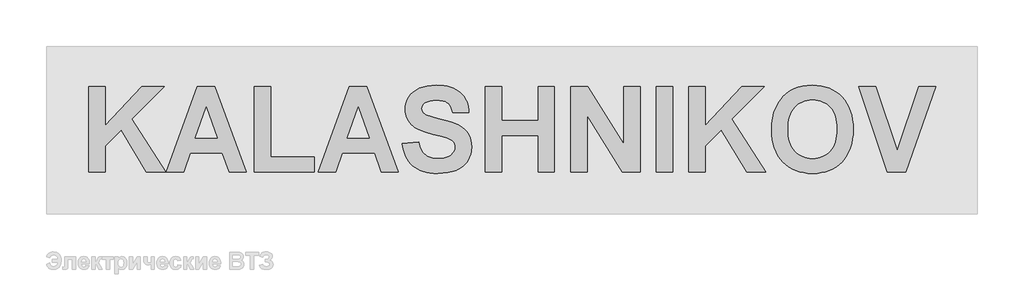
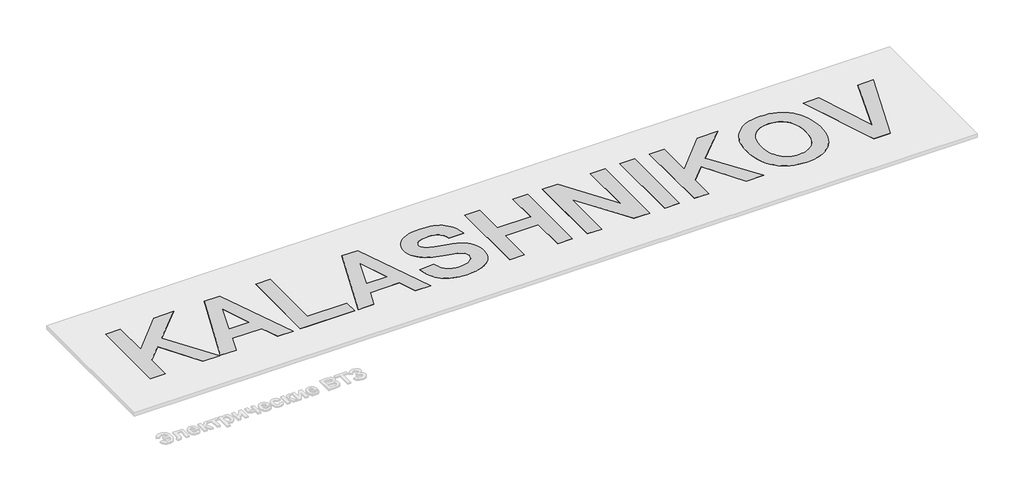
# One storey, part 8 of 8: 1 proxy.
"""IFC4 building model written with IfcOpenShell, lengths in millimetres."""

from ifc_helpers import new_model, si_unit, origin, origin_with_axes, place, context, project, spatial, polyline, outline, extrude, element, save

model = new_model("IFC4")

# Units and contexts
model_context = context("Model", 3, world=origin())
ifc_project = project(units=[si_unit("LENGTHUNIT", "METRE", prefix="MILLI")], contexts=[model_context])

# Site, building, storey
site = spatial("IfcSite", under=ifc_project)
building = spatial("IfcBuilding", under=site)
storey = spatial("IfcBuildingStorey", under=building, Name="Уровень 1", Elevation=0.0)

# Proxy
placement = place(None, origin())
element("IfcBuildingElementProxy", 1, Name="ИЗТТ_Текст3", ObjectType="ИЗТТ_Текст3", at=placement, inside=storey, context=model_context, shape_type="SweptSolid", body=[
    extrude(outline(polyline([(-14339.1895869, 18894.6450395), (-14339.1895869, 20935.1638394), (-13950.5193393, 20935.1638394), (-13950.5193393, 20004.9868666), (-13074.9991201, 20935.1638394), (-12541.5896918, 20935.1638394), (-13313.8693764, 20155.79902), (-12509.2005045, 18894.6450395), (-12963.6612888, 18894.6450395), (-13566.4038212, 19900.228089), (-13950.5193393, 19512.0639224), (-13950.5193393, 18894.6450395), (-14339.1895869, 18894.6450395)])), origin_with_axes(), (0.0, 0.0, 1.0), 100.0),
    extrude(outline(polyline([(-10582.0438601, 18894.6450395), (-10990.4512687, 18894.6450395), (-11150.372881, 19348.0936617), (-11921.1343225, 19348.0936617), (-12079.0316106, 18894.6450395), (-12493.0059108, 18894.6450395), (-11748.0546029, 20935.1638394), (-11334.0803027, 20935.1638394), (-10582.0438601, 18894.6450395)]), holes=[polyline([(-11274.8688197, 19704.374722), (-11537.5248854, 20449.3260299), (-11796.6383838, 19704.374722), (-11274.8688197, 19704.374722)])]), origin_with_axes(), (0.0, 0.0, 1.0), 100.0),
    extrude(outline(polyline([(-10387.7087363, 18894.6450395), (-10387.7087363, 20935.1638394), (-9999.0384887, 20935.1638394), (-9999.0384887, 19250.9260998), (-8962.5844951, 19250.9260998), (-8962.5844951, 18894.6450395), (-10387.7087363, 18894.6450395)])), origin_with_axes(), (0.0, 0.0, 1.0), 100.0),
    extrude(outline(polyline([(-6954.4548825, 18894.6450395), (-7362.8622911, 18894.6450395), (-7522.7839034, 19348.0936617), (-8293.5453449, 19348.0936617), (-8451.442633, 18894.6450395), (-8865.4169332, 18894.6450395), (-8120.4656253, 20935.1638394), (-7706.4913251, 20935.1638394), (-6954.4548825, 18894.6450395)]), holes=[polyline([(-7647.2798421, 19704.374722), (-7909.9359078, 20449.3260299), (-8169.0494062, 19704.374722), (-7647.2798421, 19704.374722)])]), origin_with_axes(), (0.0, 0.0, 1.0), 100.0),
    extrude(outline(polyline([(-6857.2873206, 19574.8179728), (-6468.617073, 19607.2071601), (-6445.0843041, 19513.6454257), (-6429.7120921, 19471.8462938), (-6411.9359952, 19433.3683189), (-6391.7560133, 19398.2115008), (-6369.1721463, 19366.3758397), (-6344.1843944, 19337.8613354), (-6316.7927575, 19312.6679881), (-6286.957698, 19290.6060173), (-6254.6396783, 19271.4856425), (-6219.8386985, 19255.3068639), (-6182.5547586, 19242.0696814), (-6142.7878584, 19231.774095), (-6100.5379981, 19224.4201047), (-6008.5893971, 19218.5369125), (-5911.9595463, 19223.7400583), (-5828.0449819, 19239.3494957), (-5790.8559322, 19251.0565738), (-5756.845704, 19265.3652248), (-5726.0142974, 19282.2754487), (-5698.3617125, 19301.7872455), (-5652.7511577, 19345.1678806), (-5634.8327255, 19368.1747997), (-5620.17219, 19392.0594531), (-5608.7695513, 19416.8218408), (-5600.6248094, 19442.4619628), (-5595.7379642, 19468.9798191), (-5594.1090159, 19496.3754098), (-5596.8133865, 19530.7414762), (-5604.9264983, 19562.4822472), (-5618.4483514, 19591.5977227), (-5637.3789458, 19618.0879027), (-5663.0783742, 19642.4272383), (-5696.9067295, 19665.0901804), (-5738.8640116, 19686.076729), (-5788.9502207, 19705.3868841), (-5910.1566326, 19739.1677943), (-6126.000201, 19791.9267439), (-6282.4425061, 19834.1528817), (-6351.222084, 19857.1400319), (-6413.7072789, 19881.3765698), (-6469.8980906, 19906.8624952), (-6519.7945193, 19933.5978083), (-6563.3965649, 19961.5825089), (-6600.7042274, 19990.8165972), (-6645.6584583, 20033.9679144), (-6684.6187918, 20079.4124113), (-6717.5852278, 20127.150088), (-6744.5577663, 20177.1809444), (-6765.5364074, 20229.5049807), (-6780.5211511, 20284.1221966), (-6789.5119972, 20341.0325924), (-6792.508946, 20400.2361679), (-6787.0053145, 20476.6544067), (-6770.4944202, 20550.5422402), (-6742.976263, 20621.8996685), (-6704.450843, 20690.7266915), (-6655.5507614, 20754.2714935), (-6596.9086195, 20809.7822589), (-6528.5244174, 20857.2589875), (-6450.3981551, 20896.7016795), (-6363.1308038, 20927.6991439), (-6267.3233347, 20949.8401899), (-6162.9757479, 20963.1248175), (-6050.0880433, 20967.5530267), (-5957.2735692, 20964.7933035), (-5870.3818249, 20956.5141338), (-5789.4128104, 20942.7155176), (-5714.3665257, 20923.397455), (-5645.2429709, 20898.5599459), (-5582.0421458, 20868.2029903), (-5524.7640505, 20832.3265882), (-5473.4086851, 20790.9307397), (-5427.8890667, 20744.9327166), (-5388.1182128, 20695.2497909), (-5354.0961234, 20641.8819625), (-5325.8227984, 20584.8292315), (-5303.2982378, 20524.0915978), (-5286.5224417, 20459.6690614), (-5275.4954101, 20391.5616224), (-5270.2171429, 20319.7692807), (-5658.8873905, 20319.7692807), (-5676.457892, 20391.9965358), (-5701.8410197, 20453.3114182), (-5735.0367737, 20503.7139279), (-5754.5643855, 20524.823043), (-5776.0451539, 20543.204065), (-5799.9060847, 20559.1574794), (-5826.5741839, 20572.9837719), (-5888.3318872, 20594.2549911), (-5961.3182639, 20607.0177226), (-6045.5333138, 20611.2719664), (-6133.3383763, 20606.748867), (-6211.0218177, 20593.1795688), (-6278.5836381, 20570.5640718), (-6308.5689404, 20555.8639988), (-6336.0238374, 20538.902376), (-6365.6928391, 20513.6615836), (-6386.8849831, 20484.498663), (-6399.6002696, 20451.4136142), (-6403.8386984, 20414.4064374), (-6399.9798303, 20380.0245559), (-6388.4032263, 20348.2363399), (-6369.1088862, 20319.0417892), (-6342.0968101, 20292.4409039), (-6318.9870933, 20276.3056166), (-6288.8792245, 20260.0359016), (-6207.6690307, 20227.0931881), (-6098.4662288, 20193.6127636), (-5961.2708188, 20159.5946279), (-5819.9318701, 20124.8964458), (-5698.2984523, 20089.375882), (-5596.3705656, 20053.0329365), (-5514.1482097, 20015.8676092), (-5445.7007475, 19974.827599), (-5385.0975416, 19926.8606043), (-5332.3385919, 19871.9666252), (-5287.4238986, 19810.1456618), (-5251.5554041, 19741.0339682), (-5225.9350508, 19664.2677987), (-5210.5628389, 19579.8471533), (-5205.4387683, 19487.7720319), (-5211.4959258, 19402.117814), (-5229.6673986, 19319.2470418), (-5259.9531865, 19239.1597154), (-5302.3532896, 19161.8558347), (-5327.8392151, 19125.1175134), (-5355.8397308, 19090.8147071), (-5386.3548367, 19058.9474159), (-5419.3845328, 19029.5156397), (-5454.9288192, 19002.5193786), (-5492.9876957, 18977.9586326), (-5533.5611625, 18955.8334016), (-5576.6492196, 18936.1436857), (-5670.7961102, 18903.8177586), (-5775.8553735, 18880.7278106), (-5891.8270095, 18866.8738418), (-6018.7110181, 18862.2558522), (-6112.3201976, 18865.0986044), (-6200.3308555, 18873.6268608), (-6282.7429917, 18887.8406216), (-6359.5566063, 18907.7398867), (-6430.7716993, 18933.3246561), (-6496.3882707, 18964.5949298), (-6556.4063204, 19001.5507079), (-6610.8258484, 19044.1919902), (-6659.8445428, 19092.2815514), (-6703.6600913, 19145.5821659), (-6742.2724941, 19204.0938337), (-6775.681751, 19267.8165549), (-6803.8878621, 19336.7503294), (-6826.8908274, 19410.8951572), (-6844.6906469, 19490.2510383), (-6857.2873206, 19574.8179728)])), origin_with_axes(), (0.0, 0.0, 1.0), 100.0),
    extrude(outline(polyline([(-4881.5468952, 18894.6450395), (-4881.5468952, 20935.1638394), (-4492.8766476, 20935.1638394), (-4492.8766476, 20125.4341569), (-3618.3685905, 20125.4341569), (-3618.3685905, 20935.1638394), (-3229.6983429, 20935.1638394), (-3229.6983429, 18894.6450395), (-3618.3685905, 18894.6450395), (-3618.3685905, 19769.1530966), (-4492.8766476, 19769.1530966), (-4492.8766476, 18894.6450395), (-4881.5468952, 18894.6450395)])), origin_with_axes(), (0.0, 0.0, 1.0), 100.0),
    extrude(outline(polyline([(-2841.0280953, 18894.6450395), (-2841.0280953, 20935.1638394), (-2433.6328488, 20935.1638394), (-1577.8497906, 19561.6598655), (-1577.8497906, 20935.1638394), (-1189.179543, 20935.1638394), (-1189.179543, 18894.6450395), (-1609.2268158, 18894.6450395), (-2452.3578477, 20247.9057714), (-2452.3578477, 18894.6450395), (-2841.0280953, 18894.6450395)])), origin_with_axes(), (0.0, 0.0, 1.0), 100.0),
    extrude(outline(polyline([(-800.5092954, 18894.6450395), (-800.5092954, 20935.1638394), (-411.8390478, 20935.1638394), (-411.8390478, 18894.6450395), (-800.5092954, 18894.6450395)])), origin_with_axes(), (0.0, 0.0, 1.0), 100.0),
    extrude(outline(polyline([(-23.1688002, 18894.6450395), (-23.1688002, 20935.1638394), (365.5014474, 20935.1638394), (365.5014474, 20004.9868666), (1241.0216666, 20935.1638394), (1774.4310949, 20935.1638394), (1002.1514103, 20155.79902), (1806.8202822, 18894.6450395), (1352.3594979, 18894.6450395), (749.6169655, 19900.228089), (365.5014474, 19512.0639224), (365.5014474, 18894.6450395), (-23.1688002, 18894.6450395)])), origin_with_axes(), (0.0, 0.0, 1.0), 100.0),
    extrude(outline(polyline([(1952.5716251, 19902.2524132), (1958.296667, 20051.6095835), (1965.4529694, 20121.5911039), (1975.4717927, 20188.4412478), (1988.3531369, 20252.1600152), (2004.0970022, 20312.7474061), (2022.7033883, 20370.2034205), (2044.1722954, 20424.5280584), (2081.4483279, 20500.2346207), (2124.9554833, 20571.9874248), (2174.6937616, 20639.7864707), (2230.6631629, 20703.6317583), (2291.1556636, 20761.4989636), (2354.4632402, 20811.3637622), (2420.5858926, 20853.2261542), (2489.5236208, 20887.0861395), (2586.7544428, 20922.2904027), (2691.1969199, 20947.4363049), (2802.8510519, 20962.5238463), (2921.7168388, 20967.5530267), (3029.6544381, 20963.1920314), (3132.0567759, 20950.1090455), (3228.9238522, 20928.3040689), (3320.255667, 20897.7771017), (3406.0522202, 20858.5281439), (3486.313512, 20810.5571955), (3561.0395423, 20753.8642564), (3630.230311, 20688.4493268), (3692.5020029, 20615.269216), (3746.4708026, 20535.2807335), (3792.13671, 20448.4838794), (3829.4997251, 20354.8786537), (3858.559848, 20254.4650563), (3879.3170786, 20147.2430872), (3891.771417, 20033.2127465), (3895.9228631, 19912.3740342), (3891.8030471, 19792.3774724), (3879.4435989, 19679.1022995), (3858.8445186, 19572.5485156), (3830.0058061, 19472.7161207), (3792.9274616, 19379.6051147), (3747.6094849, 19293.2154977), (3694.0518762, 19213.5472696), (3632.2546352, 19140.6004306), (3563.5541325, 19075.36342), (3489.2867382, 19018.8246775), (3409.4524523, 18970.9842031), (3324.0512748, 18931.8419968), (3233.0832058, 18901.3980585), (3136.5482452, 18879.6523883), (3034.4463931, 18866.6049862), (2926.7776494, 18862.2558522), (2817.9227782, 18866.5852174), (2714.7929489, 18879.5733132), (2617.3881615, 18901.2201394), (2525.708416, 18931.5256961), (2439.7537124, 18970.4899833), (2359.5240507, 19018.113001), (2285.0194309, 19074.3947492), (2216.239853, 19139.3352279), (2154.4426121, 19211.8669224), (2100.8850033, 19290.9223179), (2055.5670266, 19376.5014145), (2018.4886821, 19468.6042121), (1989.6499696, 19567.2307108), (1969.0508893, 19672.3809105), (1956.6914412, 19784.0548113), (1952.5716251, 19902.2524132)]), holes=[polyline([(2341.2418727, 19916.4226826), (2343.8236768, 19833.116997), (2351.5690892, 19755.0144572), (2364.4781097, 19682.1150633), (2382.5507385, 19614.4188151), (2405.7869756, 19551.9257127), (2434.1868208, 19494.6357562), (2467.7502743, 19442.5489455), (2506.477336, 19395.6652805), (2549.1818785, 19354.1508193), (2594.6777743, 19318.1716195), (2642.9650234, 19287.7276813), (2694.0436258, 19262.8190045), (2747.9135815, 19243.4455893), (2804.5748904, 19229.6074355), (2864.0275527, 19221.3045433), (2926.2715683, 19218.5369125), (2988.4839538, 19221.2847745), (3047.8417259, 19229.5283603), (3104.3448846, 19243.2676701), (3157.9934298, 19262.5027039), (3208.7873616, 19287.2334615), (3256.72668, 19317.459943), (3301.8113849, 19353.1821485), (3344.0414764, 19394.4000779), (3382.2940871, 19441.1137312), (3415.4463497, 19493.3231085), (3443.4982643, 19551.0282096), (3466.4498307, 19614.2290347), (3484.3010491, 19682.9255837), (3497.0519193, 19757.1178566), (3504.7024415, 19836.8058534), (3507.2526155, 19921.9895742), (3504.7696553, 20006.0306588), (3497.3207749, 20084.568112), (3484.9059741, 20157.6019337), (3467.525253, 20225.1321241), (3445.1786115, 20287.1586829), (3417.8660498, 20343.6816104), (3385.5875677, 20394.7009064), (3348.3431653, 20440.216571), (3306.9868544, 20480.3076793), (3262.3726467, 20515.0533065), (3214.5005422, 20544.4534526), (3163.370541, 20568.5081176), (3108.982643, 20587.2173014), (3051.3368482, 20600.5810042), (2990.4331566, 20608.5992259), (2926.2715683, 20611.2719664), (2862.0783499, 20608.5675958), (2801.0797682, 20600.4544839), (2743.2758231, 20586.9326308), (2688.6665146, 20568.0020365), (2637.2518428, 20543.6627009), (2589.0318076, 20513.9146241), (2544.006409, 20478.7578061), (2502.1756471, 20438.1922468), (2464.4567937, 20392.1784087), (2431.7671208, 20340.6767542), (2404.1066283, 20283.6872832), (2381.4753163, 20221.2099959), (2363.8731847, 20153.2448922), (2351.3002336, 20079.7919721), (2343.7564629, 20000.8512355), (2341.2418727, 19916.4226826)])]), origin_with_axes(), (0.0, 0.0, 1.0), 100.0),
    extrude(outline(polyline([(4713.2437614, 18894.6450395), (4025.4796123, 20935.1638394), (4435.4052641, 20935.1638394), (4948.5714504, 19412.8720363), (5463.2558798, 20935.1638394), (5871.6632884, 20935.1638394), (5147.4613036, 18894.6450395), (4713.2437614, 18894.6450395)])), origin_with_axes(), (0.0, 0.0, 1.0), 100.0),
])

save(model, "model.ifc")
